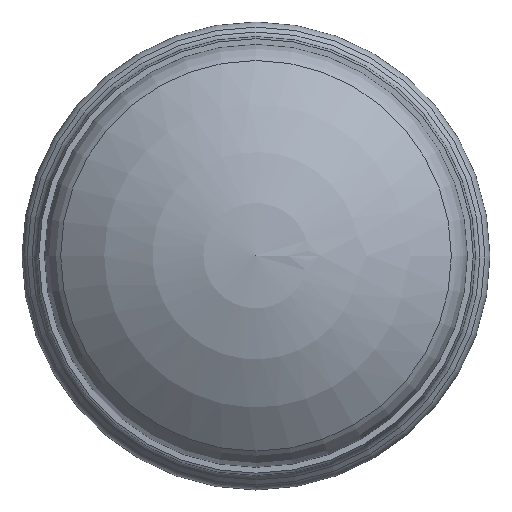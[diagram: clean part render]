
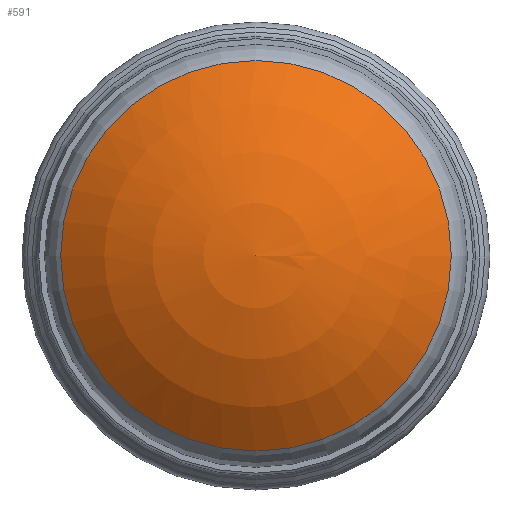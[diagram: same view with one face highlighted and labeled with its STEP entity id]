
A CAD part, top view. The second image highlights one B-rep face of the part: STEP entity #591.
In plain terms, the highlighted spherical face has radius 52.416 mm.
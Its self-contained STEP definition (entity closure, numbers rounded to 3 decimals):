
#107=SPHERICAL_SURFACE('',#651,52.416);
#130=ORIENTED_EDGE('',*,*,#282,.T.);
#282=EDGE_CURVE('',#360,#360,#418,.T.);
#360=VERTEX_POINT('',#935);
#418=CIRCLE('',#652,33.259);
#460=EDGE_LOOP('',(#130));
#518=FACE_BOUND('',#460,.T.);
#591=ADVANCED_FACE('',(#518),#107,.T.);
#651=AXIS2_PLACEMENT_3D('',#933,#741,#742);
#652=AXIS2_PLACEMENT_3D('',#934,#743,#744);
#741=DIRECTION('',(0.,0.,1.));
#742=DIRECTION('',(1.,0.,0.));
#743=DIRECTION('',(0.,0.,1.));
#744=DIRECTION('',(1.,0.,0.));
#933=CARTESIAN_POINT('',(0.,0.,-19.016));
#934=CARTESIAN_POINT('',(0.,0.,21.497));
#935=CARTESIAN_POINT('',(33.259,0.,21.497));
